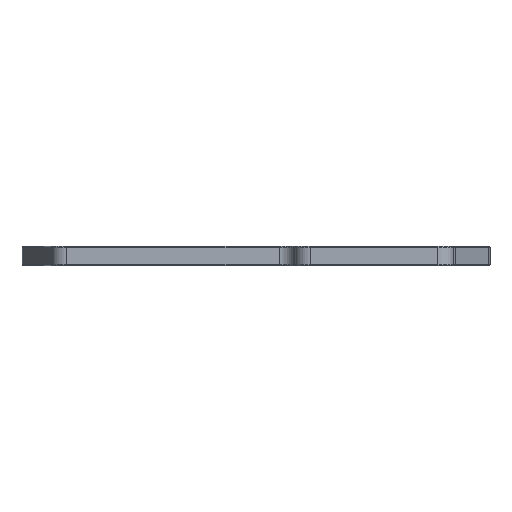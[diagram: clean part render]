
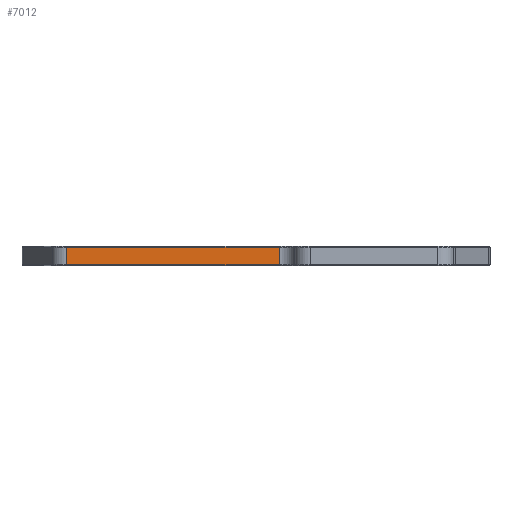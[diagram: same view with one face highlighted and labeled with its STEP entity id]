
A CAD part, left-side view. The second image highlights one B-rep face of the part: STEP entity #7012.
In plain terms, the highlighted planar face has unit normal (-1, 0, 0).
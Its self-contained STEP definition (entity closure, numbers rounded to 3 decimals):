
#159 = EDGE_CURVE ( 'NONE', #8711, #6021, #5188, .T. ) ;
#319 = CARTESIAN_POINT ( 'NONE',  ( -29., 29., -90.799 ) ) ;
#578 = DIRECTION ( 'NONE',  ( 0., 1., 0. ) ) ;
#607 = ORIENTED_EDGE ( 'NONE', *, *, #3497, .T. ) ;
#820 = VERTEX_POINT ( 'NONE', #1459 ) ;
#825 = LINE ( 'NONE', #5904, #7279 ) ;
#1314 = CARTESIAN_POINT ( 'NONE',  ( -29., 29., 0.25 ) ) ;
#1459 = CARTESIAN_POINT ( 'NONE',  ( -29., 29., 4.75 ) ) ;
#1826 = VECTOR ( 'NONE', #7564, 1000. ) ;
#2166 = CARTESIAN_POINT ( 'NONE',  ( -29., 0., 0.25 ) ) ;
#2342 = DIRECTION ( 'NONE',  ( 0., 1., 0. ) ) ;
#2611 = ORIENTED_EDGE ( 'NONE', *, *, #7679, .T. ) ;
#2661 = AXIS2_PLACEMENT_3D ( 'NONE', #4534, #6609, #578 ) ;
#3064 = DIRECTION ( 'NONE',  ( 0., 0., 1. ) ) ;
#3497 = EDGE_CURVE ( 'NONE', #7845, #820, #3748, .T. ) ;
#3748 = LINE ( 'NONE', #319, #4415 ) ;
#4033 = ORIENTED_EDGE ( 'NONE', *, *, #159, .T. ) ;
#4415 = VECTOR ( 'NONE', #3064, 1000. ) ;
#4495 = CARTESIAN_POINT ( 'NONE',  ( -29., 83.452, 0. ) ) ;
#4525 = CARTESIAN_POINT ( 'NONE',  ( -29., 83.452, 4.75 ) ) ;
#4534 = CARTESIAN_POINT ( 'NONE',  ( -29., 0., -90.799 ) ) ;
#4699 = EDGE_LOOP ( 'NONE', ( #4033, #7063, #607, #2611 ) ) ;
#5000 = PLANE ( 'NONE',  #2661 ) ;
#5188 = LINE ( 'NONE', #4495, #8886 ) ;
#5673 = FACE_OUTER_BOUND ( 'NONE', #4699, .T. ) ;
#5904 = CARTESIAN_POINT ( 'NONE',  ( -29., 83.452, 4.75 ) ) ;
#6011 = CARTESIAN_POINT ( 'NONE',  ( -29., 83.452, 0.25 ) ) ;
#6021 = VERTEX_POINT ( 'NONE', #6011 ) ;
#6609 = DIRECTION ( 'NONE',  ( 1., 0., 0. ) ) ;
#7012 = ADVANCED_FACE ( 'NONE', ( #5673 ), #5000, .F. ) ;
#7063 = ORIENTED_EDGE ( 'NONE', *, *, #7948, .T. ) ;
#7107 = DIRECTION ( 'NONE',  ( 0., 0., -1. ) ) ;
#7279 = VECTOR ( 'NONE', #2342, 1000. ) ;
#7564 = DIRECTION ( 'NONE',  ( 0., -1., 0. ) ) ;
#7611 = LINE ( 'NONE', #2166, #1826 ) ;
#7679 = EDGE_CURVE ( 'NONE', #820, #8711, #825, .T. ) ;
#7845 = VERTEX_POINT ( 'NONE', #1314 ) ;
#7948 = EDGE_CURVE ( 'NONE', #6021, #7845, #7611, .T. ) ;
#8711 = VERTEX_POINT ( 'NONE', #4525 ) ;
#8886 = VECTOR ( 'NONE', #7107, 1000. ) ;
